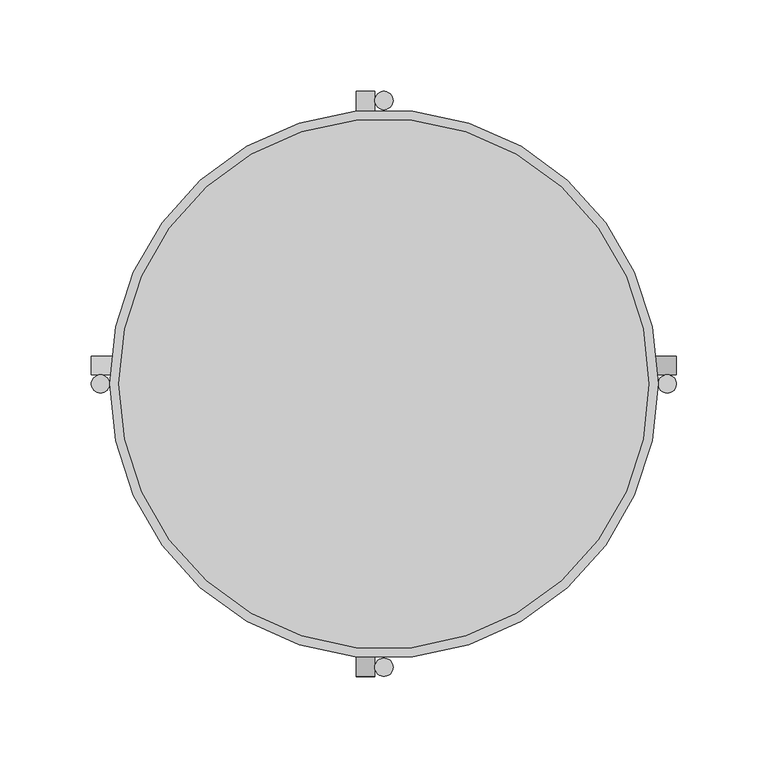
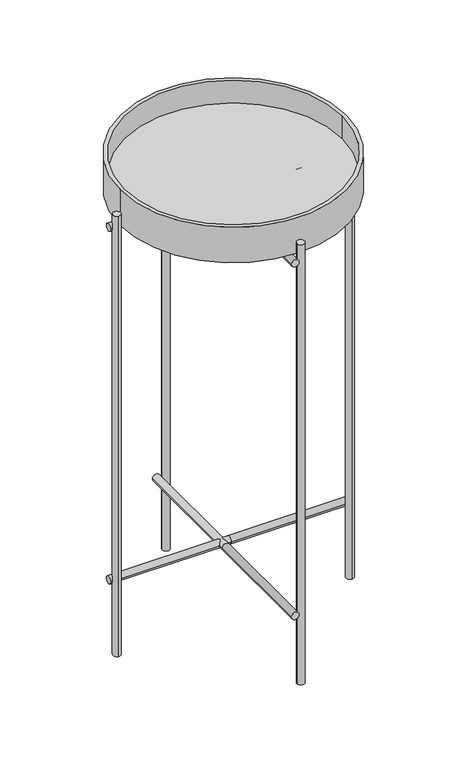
"""IFC4 building model written with IfcOpenShell, lengths in millimetres: furniture geometry, Mobiliário_Mobiliário de Escritório_Mesa de Centro e Apoio Lateral HOS05_Marelli : Mobiliário_Mobiliário de Escritório_Mesa de Centro e Apoio Lateral HOS05_Marelli."""

from ifc_helpers import new_model, si_unit, point, frame, frame_2d, origin, origin_with_axes, place, context, project, spatial, polyline, circle_curve, trimmed, segment, composite_curve, outline, extrude, source, transform, mapped, element, save
from ifc_brep_helpers import plane_surface, cylinder_surface, revolved_surface, advanced_brep


def furniture_314bbc4c(model_context):
    return source(origin(), model_context, "Body", "SolidModel", [
        extrude(outline(composite_curve([segment(trimmed(circle_curve(frame_2d((0.0, 155.0)), 5.0), [point((-5.0, 155.0))], [point((5.0, 155.0))], False, "CARTESIAN"), True, "CONTINUOUS"), segment(trimmed(circle_curve(frame_2d((0.0, 155.0)), 5.0), [point((5.0, 155.0))], [point((-5.0, 155.0))], False, "CARTESIAN"), True, "CONTINUOUS")], self_intersect=False)), origin_with_axes(), (0.0, 0.0, 1.0), 618.0),
        extrude(outline(composite_curve([segment(trimmed(circle_curve(frame_2d((0.0, -155.0)), 5.0), [point((-5.0, -155.0))], [point((5.0, -155.0))], False, "CARTESIAN"), True, "CONTINUOUS"), segment(trimmed(circle_curve(frame_2d((0.0, -155.0)), 5.0), [point((5.0, -155.0))], [point((-5.0, -155.0))], False, "CARTESIAN"), True, "CONTINUOUS")], self_intersect=False)), origin_with_axes(), (0.0, 0.0, 1.0), 618.0),
        extrude(outline(composite_curve([segment(trimmed(circle_curve(frame_2d((155.0, 0.0)), 5.0), [point((155.0, -5.0))], [point((155.0, 5.0))], False, "CARTESIAN"), True, "CONTINUOUS"), segment(trimmed(circle_curve(frame_2d((155.0, 0.0)), 5.0), [point((155.0, 5.0))], [point((155.0, -5.0))], False, "CARTESIAN"), True, "CONTINUOUS")], self_intersect=False)), origin_with_axes(), (0.0, 0.0, 1.0), 618.0),
        extrude(outline(composite_curve([segment(trimmed(circle_curve(frame_2d((-155.0, 0.0)), 5.0), [point((-155.0, -5.0))], [point((-155.0, 5.0))], False, "CARTESIAN"), True, "CONTINUOUS"), segment(trimmed(circle_curve(frame_2d((-155.0, 0.0)), 5.0), [point((-155.0, 5.0))], [point((-155.0, -5.0))], False, "CARTESIAN"), True, "CONTINUOUS")], self_intersect=False)), origin_with_axes(), (0.0, 0.0, 1.0), 618.0),
        advanced_brep(
        [(-150.0, 0.0, 650.0), (150.0, 0.0, 650.0), (145.0, 0.0, 650.0), (-145.0, 0.0, 650.0), (-150.0, 0.0, 600.0), (150.0, 0.0, 600.0), (-145.0, 0.0, 618.0), (145.0, 0.0, 618.0)],
        [
            (0, 1, circle_curve(frame((0.0, 0.0, 650.0), z_axis=(0.0, 0.0, 1.0), x_axis=(1.0, 0.0, 0.0)), 150.0)),
            (1, 0, circle_curve(frame((0.0, 0.0, 650.0), z_axis=(0.0, 0.0, 1.0), x_axis=(1.0, 0.0, 0.0)), 150.0)),
            (2, 3, circle_curve(frame((0.0, 0.0, 650.0), z_axis=(0.0, 0.0, -1.0), x_axis=(1.0, 0.0, 0.0)), 145.0)),
            (3, 2, circle_curve(frame((0.0, 0.0, 650.0), z_axis=(0.0, 0.0, -1.0), x_axis=(1.0, 0.0, 0.0)), 145.0)),
            (4, 5, circle_curve(frame((0.0, 0.0, 600.0), z_axis=(0.0, 0.0, -1.0), x_axis=(1.0, 0.0, 0.0)), 150.0)),
            (5, 4, circle_curve(frame((0.0, 0.0, 600.0), z_axis=(0.0, 0.0, -1.0), x_axis=(1.0, 0.0, 0.0)), 150.0)),
            (0, 4),
            (5, 1),
            (6, 7, circle_curve(frame((0.0, 0.0, 618.0), z_axis=(0.0, 0.0, 1.0), x_axis=(1.0, 0.0, 0.0)), 145.0)),
            (7, 6, circle_curve(frame((0.0, 0.0, 618.0), z_axis=(0.0, 0.0, 1.0), x_axis=(1.0, 0.0, 0.0)), 145.0)),
            (6, 3),
            (2, 7),
        ],
        [
            plane_surface(frame((150.0, 0.0, 650.0), z_axis=(0.0, 0.0, 1.0), x_axis=(0.0, 1.0, 0.0))),
            plane_surface(frame((150.0, 0.0, 600.0), z_axis=(0.0, 0.0, -1.0), x_axis=(0.0, -1.0, 0.0))),
            cylinder_surface(frame((0.0, 0.0, 600.0), z_axis=(0.0, 0.0, 1.0), x_axis=(1.0, 0.0, 0.0)), 150.0),
            plane_surface(frame((145.0, 0.0, 618.0), z_axis=(0.0, 0.0, 1.0), x_axis=(0.0, -1.0, 0.0))),
            revolved_surface(polyline([(145.0, 0.0, 650.0), (145.0, 0.0, 618.0)]), (0.0, 0.0, 618.0), (0.0, 0.0, 1.0)),
        ],
        [
            (0, [[1, 2], [3, 4]]),
            (1, [[5, 6]]),
            (2, [[-1, 7, -6, 8]]),
            (2, [[-2, -8, -5, -7]]),
            (3, [[9, 10]]),
            (4, [[-9, 11, -3, 12]]),
            (4, [[-10, -12, -4, -11]]),
        ],
    ),
        advanced_brep(
        [(-15.0, 160.0, 100.0), (-5.0, 160.0, 100.0), (-5.0, 0.0, 100.0), (-15.0, 0.0, 100.0), (-15.0, -160.0, 100.0), (-5.0, -160.0, 100.0)],
        [
            (0, 1, circle_curve(frame((-10.0, 160.0, 100.0), z_axis=(0.0, 1.0, 0.0), x_axis=(1.0, 0.0, 0.0)), 5.0)),
            (1, 0, circle_curve(frame((-10.0, 160.0, 100.0), z_axis=(0.0, 1.0, 0.0), x_axis=(1.0, 0.0, 0.0)), 5.0)),
            (1, 2),
            (2, 3, circle_curve(frame((-10.0, 0.0, 100.0), z_axis=(0.0, 1.0, 0.0), x_axis=(1.0, 0.0, 0.0)), 5.0)),
            (3, 0),
            (3, 2, circle_curve(frame((-10.0, 0.0, 100.0), z_axis=(0.0, 1.0, 0.0), x_axis=(1.0, 0.0, 0.0)), 5.0)),
            (4, 5, circle_curve(frame((-10.0, -160.0, 100.0), z_axis=(0.0, -1.0, 0.0), x_axis=(1.0, 0.0, 0.0)), 5.0)),
            (5, 4, circle_curve(frame((-10.0, -160.0, 100.0), z_axis=(0.0, -1.0, 0.0), x_axis=(1.0, 0.0, 0.0)), 5.0)),
            (4, 3),
            (2, 5),
        ],
        [
            plane_surface(frame((-5.0, 160.0, 100.0), z_axis=(0.0, 1.0, 0.0), x_axis=(0.0, 0.0, -1.0))),
            cylinder_surface(frame((-10.0, 160.0, 100.0), z_axis=(0.0, -1.0, 0.0), x_axis=(1.0, 0.0, 0.0)), 5.0),
            plane_surface(frame((-5.0, -160.0, 100.0), z_axis=(0.0, -1.0, 0.0), x_axis=(0.0, 0.0, 1.0))),
            cylinder_surface(frame((-10.0, -160.0, 100.0), z_axis=(0.0, 1.0, 0.0), x_axis=(1.0, 0.0, 0.0)), 5.0),
        ],
        [
            (0, [[1, 2]]),
            (1, [[-2, 3, 4, 5]]),
            (1, [[-1, -5, 6, -3]]),
            (2, [[7, 8]]),
            (3, [[-7, 9, -4, 10]]),
            (3, [[-8, -10, -6, -9]]),
        ],
    ),
        advanced_brep(
        [(-160.0, 5.0, 100.0), (-160.0, 15.0, 100.0), (0.0, 15.0, 100.0), (0.0, 5.0, 100.0), (160.0, 5.0, 100.0), (160.0, 15.0, 100.0)],
        [
            (0, 1, circle_curve(frame((-160.0, 10.0, 100.0), z_axis=(-1.0, 0.0, 0.0), x_axis=(0.0, 1.0, 0.0)), 5.0)),
            (1, 0, circle_curve(frame((-160.0, 10.0, 100.0), z_axis=(-1.0, 0.0, 0.0), x_axis=(0.0, 1.0, 0.0)), 5.0)),
            (1, 2),
            (2, 3, circle_curve(frame((0.0, 10.0, 100.0), z_axis=(-1.0, 0.0, 0.0), x_axis=(0.0, 1.0, 0.0)), 5.0)),
            (3, 0),
            (3, 2, circle_curve(frame((0.0, 10.0, 100.0), z_axis=(-1.0, 0.0, 0.0), x_axis=(0.0, 1.0, 0.0)), 5.0)),
            (4, 5, circle_curve(frame((160.0, 10.0, 100.0), z_axis=(1.0, 0.0, 0.0), x_axis=(0.0, 1.0, 0.0)), 5.0)),
            (5, 4, circle_curve(frame((160.0, 10.0, 100.0), z_axis=(1.0, 0.0, 0.0), x_axis=(0.0, 1.0, 0.0)), 5.0)),
            (4, 3),
            (2, 5),
        ],
        [
            plane_surface(frame((-160.0, 15.0, 100.0), z_axis=(-1.0, 0.0, 0.0), x_axis=(0.0, 0.0, -1.0))),
            cylinder_surface(frame((-160.0, 10.0, 100.0), z_axis=(1.0, 0.0, 0.0), x_axis=(0.0, 1.0, 0.0)), 5.0),
            plane_surface(frame((160.0, 15.0, 100.0), z_axis=(1.0, 0.0, 0.0), x_axis=(0.0, 0.0, 1.0))),
            cylinder_surface(frame((160.0, 10.0, 100.0), z_axis=(-1.0, 0.0, 0.0), x_axis=(0.0, 1.0, 0.0)), 5.0),
        ],
        [
            (0, [[1, 2]]),
            (1, [[-2, 3, 4, 5]]),
            (1, [[-1, -5, 6, -3]]),
            (2, [[7, 8]]),
            (3, [[-7, 9, -4, 10]]),
            (3, [[-8, -10, -6, -9]]),
        ],
    ),
        extrude(outline(composite_curve([segment(trimmed(circle_curve(frame_2d((595.0, -10.0)), 5.0), [point((595.0, -15.0))], [point((595.0, -5.0))], False, "CARTESIAN"), True, "CONTINUOUS"), segment(trimmed(circle_curve(frame_2d((595.0, -10.0)), 5.0), [point((595.0, -5.0))], [point((595.0, -15.0))], False, "CARTESIAN"), True, "CONTINUOUS")], self_intersect=False)), frame((0.0, -160.0, 0.0), z_axis=(0.0, 1.0, 0.0), x_axis=(0.0, 0.0, 1.0)), (0.0, 0.0, 1.0), 130.0),
        extrude(outline(composite_curve([segment(trimmed(circle_curve(frame_2d((595.0, -10.0)), 5.0), [point((595.0, -15.0))], [point((595.0, -5.0))], False, "CARTESIAN"), True, "CONTINUOUS"), segment(trimmed(circle_curve(frame_2d((595.0, -10.0)), 5.0), [point((595.0, -5.0))], [point((595.0, -15.0))], False, "CARTESIAN"), True, "CONTINUOUS")], self_intersect=False)), frame((0.0, 30.0, 0.0), z_axis=(0.0, 1.0, 0.0), x_axis=(0.0, 0.0, 1.0)), (0.0, 0.0, 1.0), 130.0),
        extrude(outline(composite_curve([segment(trimmed(circle_curve(frame_2d((10.0, 595.0)), 5.0), [point((5.0, 595.0))], [point((15.0, 595.0))], False, "CARTESIAN"), True, "CONTINUOUS"), segment(trimmed(circle_curve(frame_2d((10.0, 595.0)), 5.0), [point((15.0, 595.0))], [point((5.0, 595.0))], False, "CARTESIAN"), True, "CONTINUOUS")], self_intersect=False)), frame((-160.0, 0.0, 0.0), z_axis=(1.0, 0.0, 0.0), x_axis=(0.0, 1.0, 0.0)), (0.0, 0.0, 1.0), 130.0),
        extrude(outline(composite_curve([segment(trimmed(circle_curve(frame_2d((10.0, 595.0)), 5.0), [point((5.0, 595.0))], [point((15.0, 595.0))], False, "CARTESIAN"), True, "CONTINUOUS"), segment(trimmed(circle_curve(frame_2d((10.0, 595.0)), 5.0), [point((15.0, 595.0))], [point((5.0, 595.0))], False, "CARTESIAN"), True, "CONTINUOUS")], self_intersect=False)), frame((30.0, 0.0, 0.0), z_axis=(1.0, 0.0, 0.0), x_axis=(0.0, 1.0, 0.0)), (0.0, 0.0, 1.0), 130.0),
    ])


if __name__ == "__main__":
    model = new_model("IFC4")
    model_context = context("Model", 3, world=origin())
    ifc_project = project(units=[si_unit("LENGTHUNIT", "METRE", prefix="MILLI")], contexts=[model_context])
    site = spatial("IfcSite", under=ifc_project)
    building = spatial("IfcBuilding", under=site)
    placement = place(None, origin())
    furniture_shape = furniture_314bbc4c(model_context)
    element("IfcFurniture", 1, ObjectType="Mobiliário_Mobiliário de Escritório_Mesa de Centro e Apoio Lateral HOS05_Marelli : Mobiliário_Mobiliário de Escritório_Mesa de Centro e Apoio Lateral HOS05_Marelli", at=placement, inside=building, context=model_context, shape_type="MappedRepresentation", body=[
        mapped(furniture_shape, transform((0.0, 0.0, 0.0), x_axis=(1.0, 0.0, 0.0), y_axis=(0.0, 1.0, 0.0), z_axis=(0.0, 0.0, 1.0))),
    ])
    save(model, "model.ifc")
